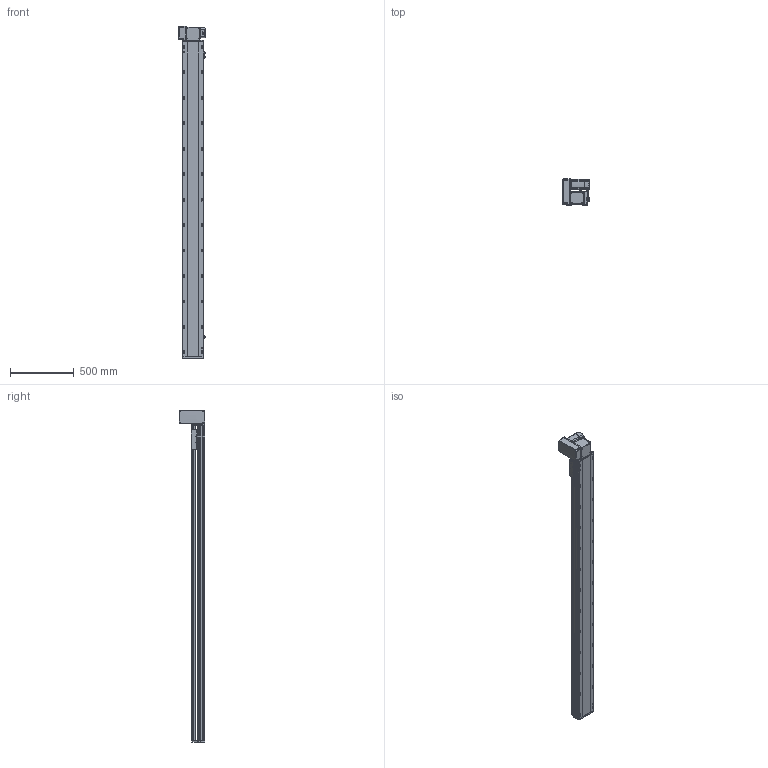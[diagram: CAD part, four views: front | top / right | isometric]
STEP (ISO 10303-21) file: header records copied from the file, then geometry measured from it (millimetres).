
FILE_DESCRIPTION (( 'STEP AP214' ), '1' );
FILE_NAME ('RTB17S-XX-2200-LW-M75-C4.STEP', '2025-12-12T01:11:54', ( '' ), ( '' ), 'SwSTEP 2.0', 'SolidWorks 2018', '' );
FILE_SCHEMA (( 'AUTOMOTIVE_DESIGN' ));
Length unit declared in the file: millimetre
Products named in the file (15): RTB17S-XX-2200-LW-M75-C4; RTB22S-GY-017P^RTB17S-LW-々湍釱蚾饜-750W_RTB17S-XX-XX-LW-M75-C4; RTB22S-GY-008-M75--萇儂啣^RTB17S-LW-々湍釱蚾饜-750W_RTB17S-XX-XX-LW-M75-C4; RTH13-BL-012覜茼え俋离^RTB17S-賑釱_RTB17S-XX-XX-LW-M75-C4; RTB17S-L-007奻裔^RTB17S-XX-XX-LW-M75-C4; RTB17S-L-014-T20-P75--々湍釱^RTB17S-LW-々湍釱蚾饜-750W_RTB17S-XX-XX-LW-M75-C4; RTB22S-GY-005P^RTB17S-LW-々湍釱蚾饜-750W_RTB17S-XX-XX-LW-M75-C4; 750W萇儂^RTB17S-XX-XX-LW-M75-C4; RTB17S-賑釱^RTB17S-XX-XX-LW-M75-C4; EE672^RTB17S-XX-XX-LW-M75-C4; RTB17-R-011菁釱^RTB17S-XX-XX-LW-M75-C4; RTB17S-L-001-耜醱啣^RTB17S-XX-XX-LW-M75-C4; RTB17S-L-004-賑釱^RTB17S-賑釱_RTB17S-XX-XX-LW-M75-C4; RTB17S-LW-々湍釱蚾饜-750W^RTB17S-XX-XX-LW-M75-C4; RTB22S-GY-018P^RTB17S-LW-々湍釱蚾饜-750W_RTB17S-XX-XX-LW-M75-C4
Assembly tree (17 placements, depth 3):
  RTB17S-XX-2200-LW-M75-C4
    RTB17-R-011菁釱^RTB17S-XX-XX-LW-M75-C4
    EE672^RTB17S-XX-XX-LW-M75-C4  x3
    RTB17S-L-001-耜醱啣^RTB17S-XX-XX-LW-M75-C4
    RTB17S-賑釱^RTB17S-XX-XX-LW-M75-C4
      RTB17S-L-004-賑釱^RTB17S-賑釱_RTB17S-XX-XX-LW-M75-C4
      RTH13-BL-012覜茼え俋离^RTB17S-賑釱_RTB17S-XX-XX-LW-M75-C4
    RTB17S-L-007奻裔^RTB17S-XX-XX-LW-M75-C4
    750W萇儂^RTB17S-XX-XX-LW-M75-C4
    RTB17S-LW-々湍釱蚾饜-750W^RTB17S-XX-XX-LW-M75-C4
      RTB17S-L-014-T20-P75--々湍釱^RTB17S-LW-々湍釱蚾饜-750W_RTB17S-XX-XX-LW-M75-C4
      RTB22S-GY-005P^RTB17S-LW-々湍釱蚾饜-750W_RTB17S-XX-XX-LW-M75-C4
      RTB22S-GY-017P^RTB17S-LW-々湍釱蚾饜-750W_RTB17S-XX-XX-LW-M75-C4  x2
      RTB22S-GY-008-M75--萇儂啣^RTB17S-LW-々湍釱蚾饜-750W_RTB17S-XX-XX-LW-M75-C4
      RTB22S-GY-018P^RTB17S-LW-々湍釱蚾饜-750W_RTB17S-XX-XX-LW-M75-C4
Bounding box: 210.4 x 201.5 x 2607.5 mm (x, y, z)
Volume: 19705150.8 mm3; surface area: 3544014.8 mm2
Topology: 17 solids, 17 shells, 2185 faces, 6106 edges, 3950 vertices
Faces by surface type: plane 982, cylinder 787, bspline 294, cone 110, sphere 8, torus 4
Entity records: 62710 total; most frequent: CARTESIAN_POINT 18570, ORIENTED_EDGE 9056, DIRECTION 8402, EDGE_CURVE 4528, AXIS2_PLACEMENT_3D 2970, VERTEX_POINT 2954, LINE 2462, VECTOR 2462
